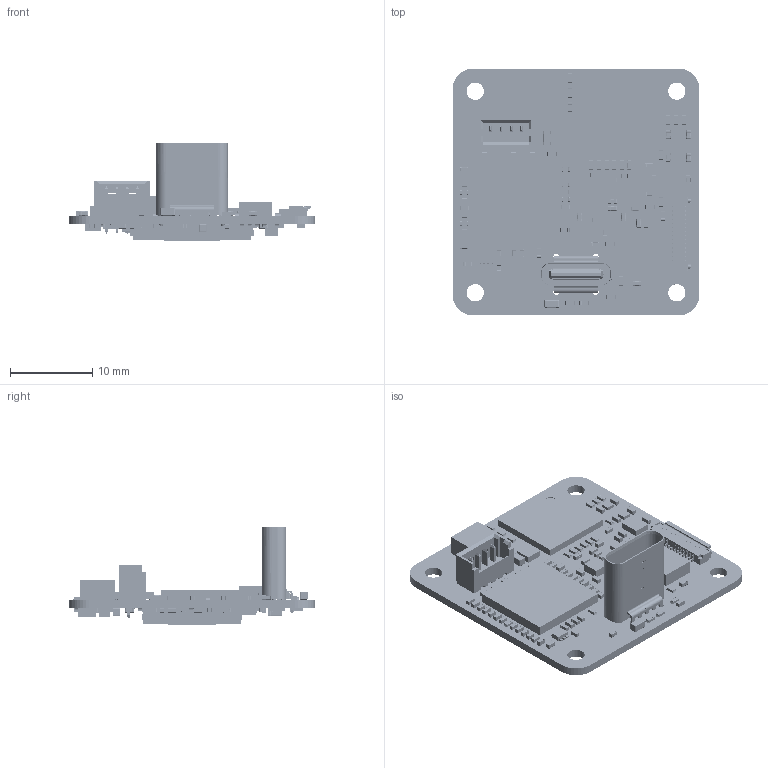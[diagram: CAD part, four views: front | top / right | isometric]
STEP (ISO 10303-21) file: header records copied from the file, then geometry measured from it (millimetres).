
FILE_DESCRIPTION(('Open CASCADE Model'),'2;1');
FILE_NAME('Open CASCADE Shape Model','2024-11-25T14:24:39',('Author'),( 'Open CASCADE'),'Open CASCADE STEP processor 7.5','Open CASCADE 7.5' ,'Unknown');
FILE_SCHEMA(('AUTOMOTIVE_DESIGN { 1 0 10303 214 1 1 1 1 }'));
Length unit declared in the file: millimetre
Products named in the file (306): PCB; Board; Open CASCADE STEP translator 7.5 1.1.1; U14; 6875680752; Extruded; U9; 6874562736; R44; User Library-R0402-2; C2; 70610838; C1; C109; C108; C107; C106; C29; C27; C24; C22; R43; R42; R2; U13; 7091564224; C21; C20; User Library-C0402-1; C19; 7091565664; C17; U1; Part Studio 1 - Part 1; C152; U8; U15; R34; R36; R41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
Assembly tree (839 placements, depth 5):
  PCB
    Board
      Open CASCADE STEP translator 7.5 1.1.1
    U14
      6875680752
        Extruded
    U9
      6874562736
        Extruded
    R44
      User Library-R0402-2
    C2
      70610838
      70610838
      70610838
      70610838
      70610838
      70610838
    C1
      70610838
      70610838
      70610838
      70610838
      70610838
      70610838
    C109
      70610838
      70610838
      70610838
      70610838
      70610838
      70610838
    C108
      70610838
      70610838
      70610838
      70610838
      70610838
      70610838
    C107
      70610838
      70610838
      70610838
      70610838
      70610838
      70610838
    C106
      70610838
      70610838
      70610838
      70610838
      70610838
      70610838
    C29
      70610838
      70610838
      70610838
      70610838
      70610838
      70610838
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Bounding box: 30.01 x 30 x 11.82 mm (x, y, z)
Volume: 1769.8 mm3; surface area: 4642.7 mm2
Topology: 610 solids, 611 shells, 17557 faces, 42049 edges, 23868 vertices
Faces by surface type: plane 7360, cylinder 5167, sphere 2545, bspline 1802, torus 663, cone 20
Full cylindrical faces by diameter (mm): 0.5 x4, 0.66 x1, 0.7 x4, 1.125 x1, 2.1 x4
Entity records: 100618 total; most frequent: CARTESIAN_POINT 19614, ORIENTED_EDGE 14339, DIRECTION 13864, EDGE_CURVE 7170, LINE 5546, VECTOR 5546, VERTEX_POINT 4637, AXIS2_PLACEMENT_3D 4159
